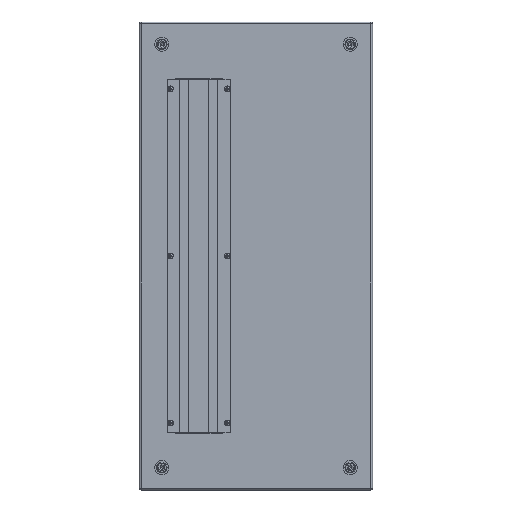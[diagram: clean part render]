
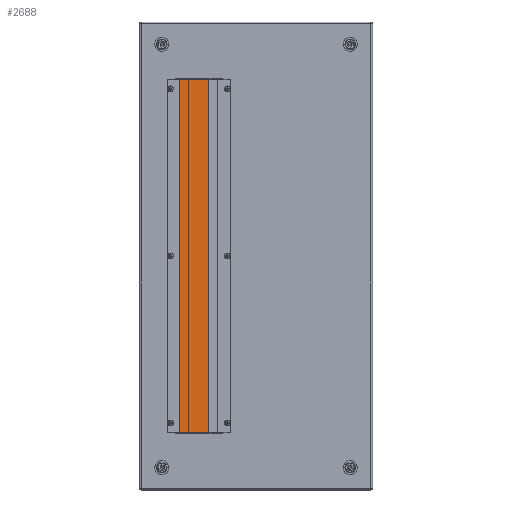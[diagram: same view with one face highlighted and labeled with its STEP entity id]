
A CAD part, top view. The second image highlights one B-rep face of the part: STEP entity #2688.
In plain terms, the highlighted planar face has unit normal (0, 0, 1).
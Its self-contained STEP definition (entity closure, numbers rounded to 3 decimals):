
#2688=ADVANCED_FACE('',(#14888),#14890,.T.);
#14888=FACE_BOUND('',#14889,.T.);
#14889=EDGE_LOOP('',(#20769,#20770,#20771,#20772));
#14890=PLANE('',#14891);
#14891=AXIS2_PLACEMENT_3D('',#14892,#14893,#14894);
#14892=CARTESIAN_POINT('',(-71.,-301.,0.));
#14893=DIRECTION('',(0.,0.,1.));
#14894=DIRECTION('',(1.,0.,0.));
#20769=ORIENTED_EDGE('',*,*,#23721,.T.);
#20770=ORIENTED_EDGE('',*,*,#23708,.T.);
#20771=ORIENTED_EDGE('',*,*,#23722,.F.);
#20772=ORIENTED_EDGE('',*,*,#23719,.F.);
#23708=EDGE_CURVE('',#28583,#28588,#28590,.T.);
#23719=EDGE_CURVE('',#28606,#28608,#28609,.T.);
#23721=EDGE_CURVE('',#28606,#28583,#28611,.T.);
#23722=EDGE_CURVE('',#28608,#28588,#28612,.T.);
#28583=VERTEX_POINT('',#41403);
#28588=VERTEX_POINT('',#41412);
#28590=LINE('',#41416,#41417);
#28606=VERTEX_POINT('',#41452);
#28608=VERTEX_POINT('',#41456);
#28609=LINE('',#41457,#41458);
#28611=LINE('',#41463,#41464);
#28612=LINE('',#41466,#41467);
#41403=CARTESIAN_POINT('',(-21.,-301.,0.));
#41412=CARTESIAN_POINT('',(-21.,301.,0.));
#41416=CARTESIAN_POINT('',(-21.,-301.,0.));
#41417=VECTOR('',#41418,1.);
#41418=DIRECTION('',(0.,1.,0.));
#41452=CARTESIAN_POINT('',(-71.,-301.,0.));
#41456=CARTESIAN_POINT('',(-71.,301.,0.));
#41457=CARTESIAN_POINT('',(-71.,-301.,0.));
#41458=VECTOR('',#41459,1.);
#41459=DIRECTION('',(0.,1.,0.));
#41463=CARTESIAN_POINT('',(-71.,-301.,0.));
#41464=VECTOR('',#41465,1.);
#41465=DIRECTION('',(1.,0.,0.));
#41466=CARTESIAN_POINT('',(-71.,301.,0.));
#41467=VECTOR('',#41468,1.);
#41468=DIRECTION('',(1.,0.,0.));
